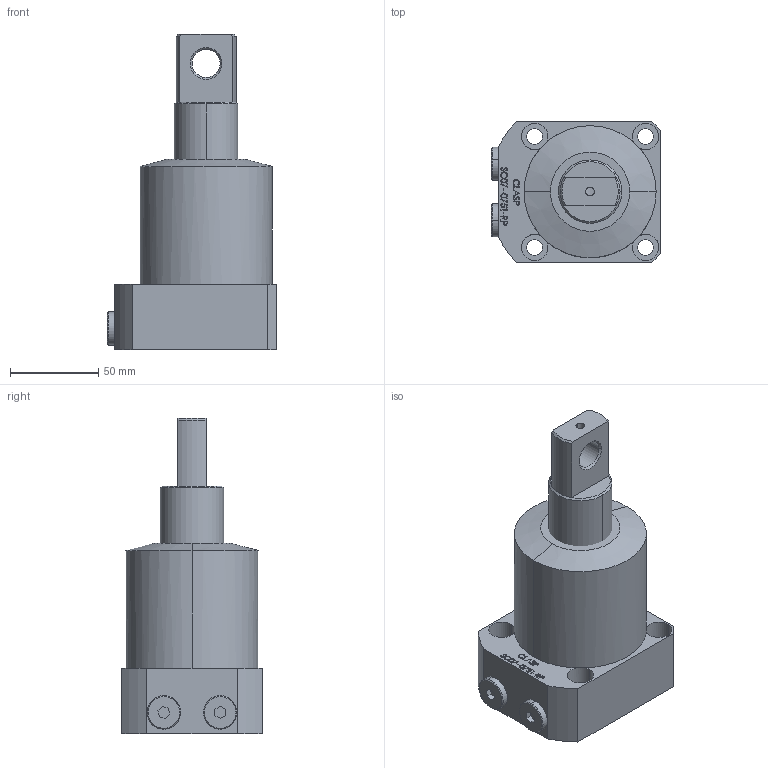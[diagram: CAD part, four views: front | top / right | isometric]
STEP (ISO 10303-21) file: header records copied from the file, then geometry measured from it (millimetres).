
FILE_DESCRIPTION (( 'STEP AP203' ), '1' );
FILE_NAME ('SC08-0751-RP.STEP', '2022-07-08T17:04:15', ( '' ), ( '' ), 'SwSTEP 2.0', 'SolidWorks 2017', '' );
FILE_SCHEMA (( 'CONFIG_CONTROL_DESIGN' ));
Length unit declared in the file: millimetre
Products named in the file (4): SC-08-0751-RP BODY; SC-08-0751-RP-Piston; SC-08-0751-RP-05 plug; SC08-0751-RP
Assembly tree (4 placements, depth 2):
  SC08-0751-RP
    SC-08-0751-RP BODY
    SC-08-0751-RP-Piston
    SC-08-0751-RP-05 plug  x2
Bounding box: 96 x 80 x 179 mm (x, y, z)
Volume: 619351.2 mm3; surface area: 63020.9 mm2
Topology: 4 solids, 4 shells, 321 faces, 803 edges, 526 vertices
Faces by surface type: plane 162, bspline 91, cylinder 50, cone 18
Entity records: 14839 total; most frequent: CARTESIAN_POINT 7539, ORIENTED_EDGE 1542, DIRECTION 1153, EDGE_CURVE 771, VERTEX_POINT 506, LINE 457, VECTOR 457, EDGE_LOOP 353
